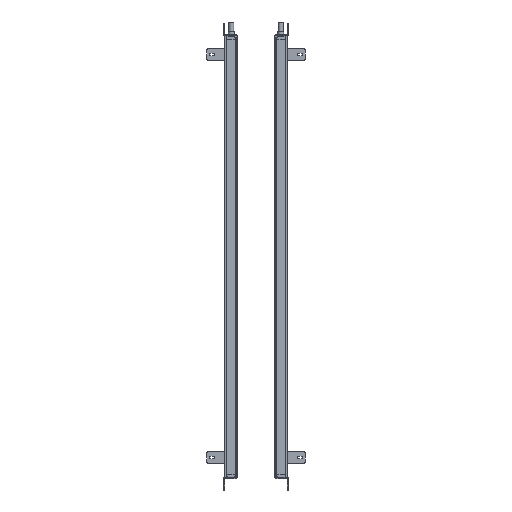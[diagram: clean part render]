
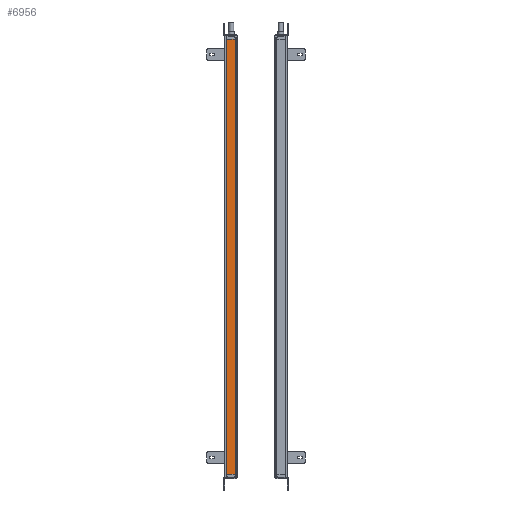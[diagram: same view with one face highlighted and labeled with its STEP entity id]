
A CAD part, left-side view. The second image highlights one B-rep face of the part: STEP entity #6956.
In plain terms, the highlighted planar face has unit normal (-1, 0, 0).
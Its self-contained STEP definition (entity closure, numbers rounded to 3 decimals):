
#953=FACE_OUTER_BOUND('',#9034,.T.);
#2188=LINE('',#33710,#4326);
#2290=LINE('',#34050,#4428);
#2291=LINE('',#34052,#4429);
#2292=LINE('',#34054,#4430);
#4326=VECTOR('',#26897,1.);
#4428=VECTOR('',#27185,1.);
#4429=VECTOR('',#27188,1.);
#4430=VECTOR('',#27189,1.);
#6178=PLANE('',#23723);
#6956=ADVANCED_FACE('',(#953),#6178,.T.);
#9034=EDGE_LOOP('',(#11681,#11682,#11683,#11684));
#11681=ORIENTED_EDGE('',*,*,#19828,.F.);
#11682=ORIENTED_EDGE('',*,*,#19829,.T.);
#11683=ORIENTED_EDGE('',*,*,#19830,.T.);
#11684=ORIENTED_EDGE('',*,*,#19658,.F.);
#17203=VERTEX_POINT('',#33709);
#17204=VERTEX_POINT('',#33711);
#17348=VERTEX_POINT('',#34049);
#17349=VERTEX_POINT('',#34053);
#19658=EDGE_CURVE('',#17203,#17204,#2188,.T.);
#19828=EDGE_CURVE('',#17348,#17203,#2290,.T.);
#19829=EDGE_CURVE('',#17348,#17349,#2291,.T.);
#19830=EDGE_CURVE('',#17349,#17204,#2292,.T.);
#23723=AXIS2_PLACEMENT_3D('',#34055,#27190,#27191);
#26897=DIRECTION('',(0.,-1.,0.));
#27185=DIRECTION('',(0.,0.,1.));
#27188=DIRECTION('',(0.,-1.,0.));
#27189=DIRECTION('',(0.,0.,1.));
#27190=DIRECTION('',(-1.,0.,0.));
#27191=DIRECTION('',(0.,1.,0.));
#33709=CARTESIAN_POINT('',(233.846,104.141,31.645));
#33710=CARTESIAN_POINT('',(233.846,81.141,31.645));
#33711=CARTESIAN_POINT('',(233.846,81.141,31.645));
#34049=CARTESIAN_POINT('',(233.846,104.141,-1113.355));
#34050=CARTESIAN_POINT('',(233.846,104.141,-155.355));
#34052=CARTESIAN_POINT('',(233.846,81.141,-1113.355));
#34053=CARTESIAN_POINT('',(233.846,81.141,-1113.355));
#34054=CARTESIAN_POINT('',(233.846,81.141,-155.355));
#34055=CARTESIAN_POINT('',(233.846,81.141,-50.355));
